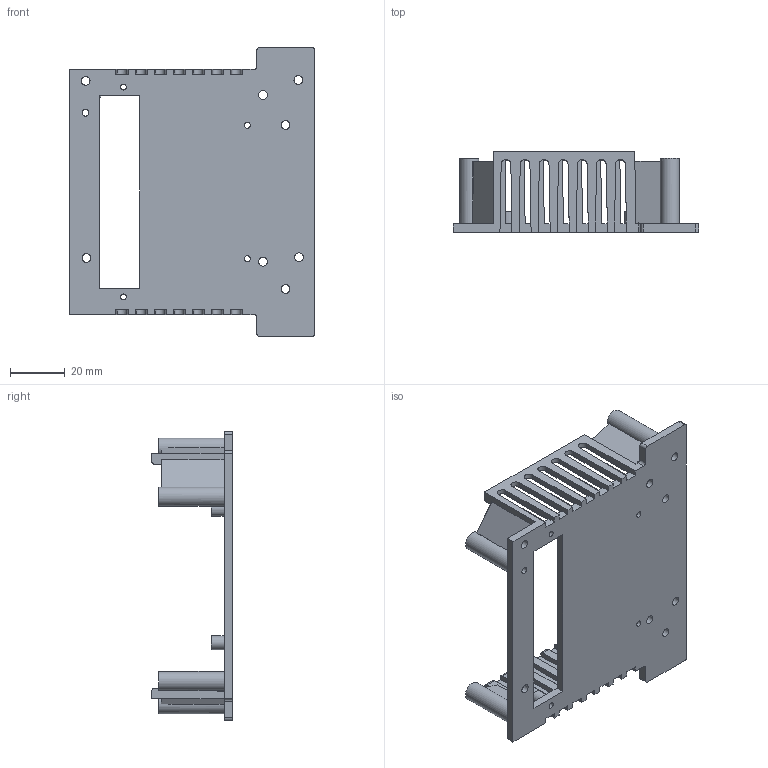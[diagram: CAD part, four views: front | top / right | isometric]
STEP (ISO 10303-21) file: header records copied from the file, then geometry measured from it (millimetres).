
FILE_DESCRIPTION(/* description */ ('STEP AP242 Edition 2','CAx-IF Rec.Pracs.---Representation and Presentation of Product Manufacturing Information (PMI)---4.0---2014-10-13','CAx-IF Rec.Pracs.---3D Tessellated Geometry---0.4---2014-09-14','2;1','CAx-IF Rec.Pracs.---User Defined Attributes---1.5---2016-08-15'),/* implementation_level */ '2;1');
FILE_NAME(/* name */ 'Assy_ForMFG - VIM4_Base',/* time_stamp */ '2026-05-15T19:56:57Z',/* author */ (''),/* organization */ (''),/* preprocessor_version */ 'ST-DEVELOPER v20',/* originating_system */ 'ONSHAPE BY PTC INC, 1.215',/* authorisation */ ' ');
FILE_SCHEMA (('AP242_MANAGED_MODEL_BASED_3D_ENGINEERING_MIM_LF { 1 0 10303 442 3 1 4 }'));
Length unit declared in the file: metre
Products named in the file (1): VIM4_Base
Bounding box: 90 x 29.6 x 106 mm (x, y, z)
Volume: 32195.5 mm3; surface area: 28760 mm2
Topology: 1 solids, 1 shells, 220 faces, 725 edges, 485 vertices
Faces by surface type: plane 152, cylinder 64, cone 4
Full cylindrical faces by diameter (mm): 2.2 x4, 2.5 x4, 3.2 x8, 5 x4, 7 x4
Entity records: 7742 total; most frequent: CARTESIAN_POINT 1366, ORIENTED_EDGE 1354, DIRECTION 1276, EDGE_CURVE 677, LINE 518, VECTOR 518, VERTEX_POINT 465, AXIS2_PLACEMENT_3D 379
